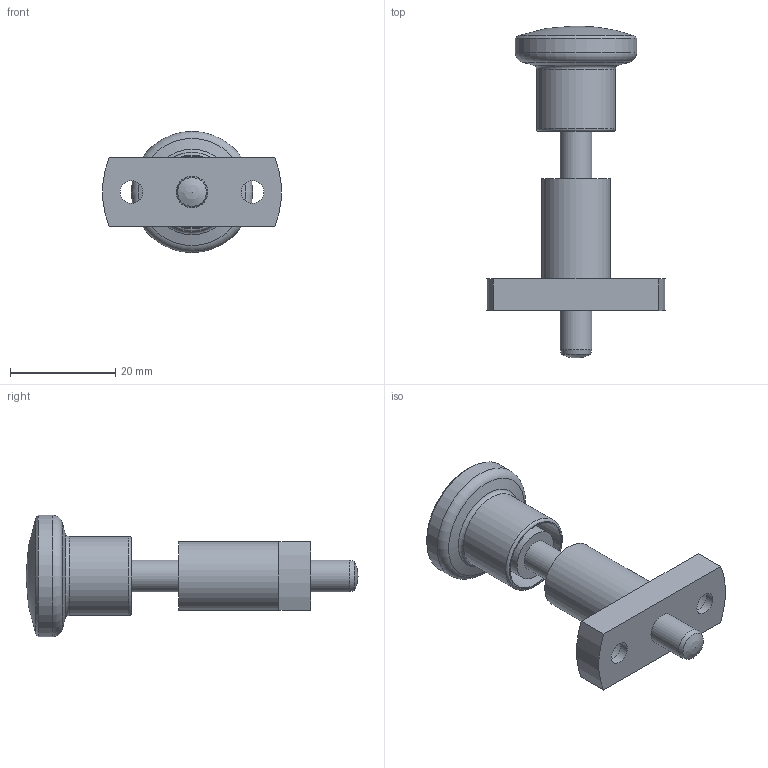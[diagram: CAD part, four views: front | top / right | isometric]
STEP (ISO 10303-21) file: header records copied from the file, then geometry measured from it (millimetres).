
FILE_DESCRIPTION( ( 'STEP AP203' ), '1' );
FILE_NAME( 'C:/Temp/Ganter_Step_05_03_2020/data/3_1/gn817_3/gn_817_3_b/Indexing plunger GN 817.3-6-18-B (activated).stp', '2020-03-12T09:02:57', ( 'License CC BY-ND 4.0' ), ( 'CADENAS' ), ' ', 'PARTsolutions', ' ' );
FILE_SCHEMA( ( 'CONFIG_CONTROL_DESIGN' ) );
Length unit declared in the file: millimetre
Products named in the file (3): Indexing plunger GN 817.3-6-18-B (activated); _Indexing plunger GN 817.3-6-18-B betaetigt-2; _Indexing plunger GN 817.3-6-18-B (activated)-1
Assembly tree (2 placements, depth 2):
  Indexing plunger GN 817.3-6-18-B (activated)
    _Indexing plunger GN 817.3-6-18-B betaetigt-2
    _Indexing plunger GN 817.3-6-18-B (activated)-1
Bounding box: 33.9 x 63 x 23 mm (x, y, z)
Volume: 8903.3 mm3; surface area: 6317 mm2
Topology: 2 solids, 2 shells, 40 faces, 77 edges, 48 vertices
Faces by surface type: cylinder 17, plane 15, cone 3, torus 3, sphere 2
Full cylindrical faces by diameter (mm): 4.3 x2, 6 x4, 7 x2, 7.8 x2, 9.8 x1, 13 x1, 13.611 x1, 15 x1, 23 x1
Entity records: 998 total; most frequent: DIRECTION 176, CARTESIAN_POINT 139, ORIENTED_EDGE 100, AXIS2_PLACEMENT_3D 83, EDGE_LOOP 76, FACE_OUTER_BOUND 58, EDGE_CURVE 50, VERTEX_POINT 46
